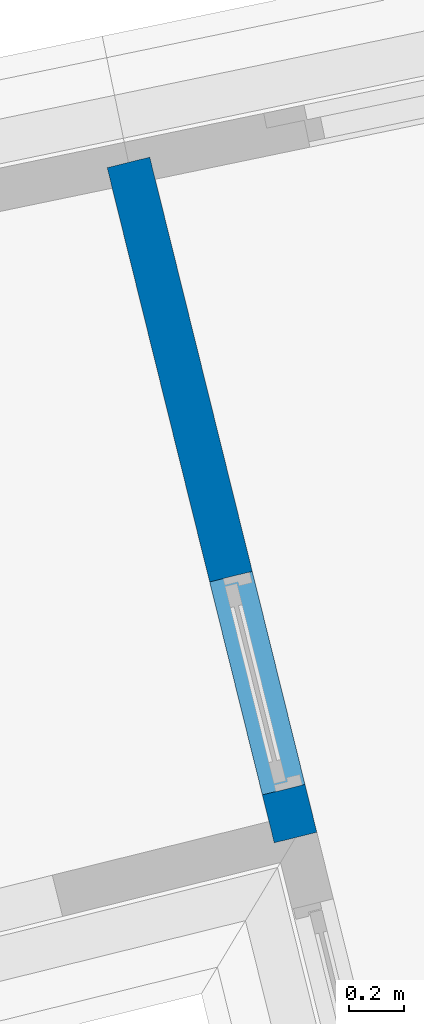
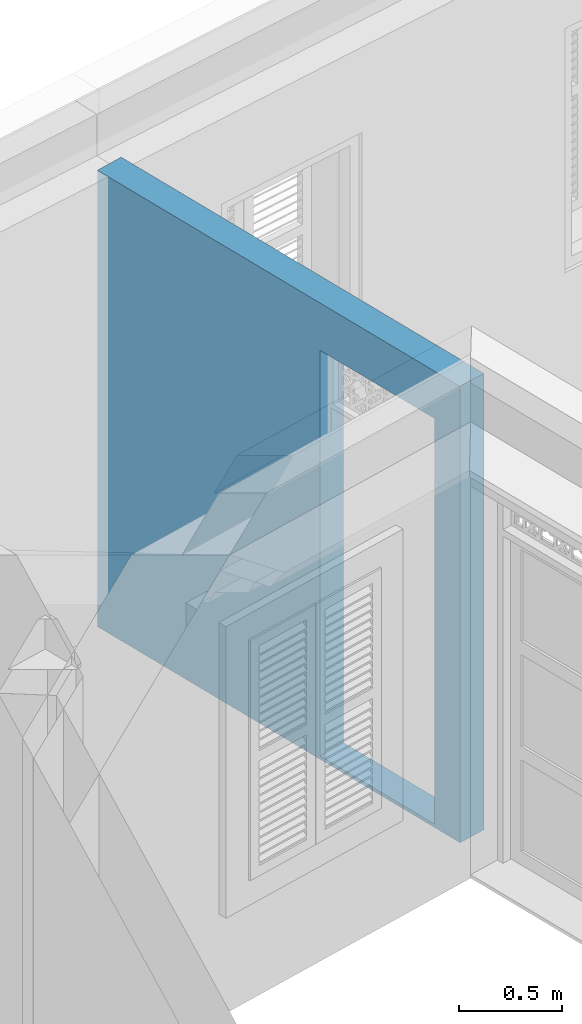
# One storey, part 10 of 15: 1 wall, 1 opening.
"""IFC4 building model written with IfcOpenShell, lengths in metres."""

from ifc_helpers import new_model, si_unit, frame, origin_with_axes, place, context, subcontext, project, spatial, polyline, outline, extrude, material, layer, layer_set, layer_usage, type_object, element, save


model = new_model("IFC4")

# Units and contexts
model_context = context("Model", 3, world=origin_with_axes())
body_context = subcontext(model_context, "Body", "Model", "MODEL_VIEW")
ifc_project = project(units=[si_unit("PLANEANGLEUNIT", "RADIAN"), si_unit("MASSUNIT", "GRAM", prefix="KILO"), si_unit("FORCEUNIT", "NEWTON", prefix="KILO"), si_unit("LENGTHUNIT", "METRE"), si_unit("AREAUNIT", "SQUARE_METRE"), si_unit("VOLUMEUNIT", "CUBIC_METRE")], contexts=[model_context, model_context])

# Site, building, storey
site_placement = place(None, origin_with_axes())
site = spatial("IfcSite", under=ifc_project, at=site_placement, Name="Site plot-5", CompositionType="ELEMENT")
building_placement = place(None, origin_with_axes())
building = spatial("IfcBuilding", under=site, at=building_placement, Name="Building plot-5", CompositionType="ELEMENT")
storey_placement = place(None, frame((0.0, 0.0, 3.45), z_axis=(0.0, 0.0, 1.0), x_axis=(1.0, 0.0, 0.0)))
storey = spatial("IfcBuildingStorey", under=building, at=storey_placement, Name="plot-5 1", CompositionType="ELEMENT", Elevation=3.45)

# Wall, opening
ifc_material = material(Name="Masonry")
ifc_layer = layer(ifc_material, 0.16, ventilated=False)
ifc_layer_set = layer_set([ifc_layer], Name="interior_0.08_0.08")
ifc_layer_usage = layer_usage(ifc_layer_set, "AXIS2", "POSITIVE", -0.08)
wall_type = type_object("IfcWallType", Name="interior_0.08_0.08", PredefinedType="SOLIDWALL", material=ifc_layer_set)
wall_placement = place(storey_placement, frame((17.8267056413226, 28.7015786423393, 0.0), z_axis=(0.0, 0.0, 1.0), x_axis=(-0.240250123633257, 0.970711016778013, 0.0)))
wall = element("IfcWall", 1, at=wall_placement, inside=storey, type_object=wall_type, material=ifc_layer_usage, Name="interior", context=body_context, shape_type="SweptSolid", body=[
    extrude(outline(polyline([(4.66751365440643e-16, 0.0799999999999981), (-4.74717759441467e-16, -0.0799999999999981), (2.53597613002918, -0.079999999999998), (2.53597613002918, 0.079999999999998), (4.66751365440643e-16, 0.0799999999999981)])), origin_with_axes(), (0.0, 0.0, 1.0), 2.7),
])
opening_placement = place(wall_placement, frame((0.179999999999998, 0.0, 0.02)))
element("IfcOpeningElement", 2, at=opening_placement, cuts=wall, Name="My Opening", ObjectType="Opening", context=body_context, shape_type="SweptSolid", body=[
    extrude(outline(polyline([(0.0, -0.0999999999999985), (0.8, -0.100000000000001), (0.800000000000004, 1.1), (3.63598040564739e-15, 1.1), (0.0, -0.0999999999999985)])), origin_with_axes(), (0.0, 0.0, 1.0), 2.4),
])

save(model, "model.ifc")
